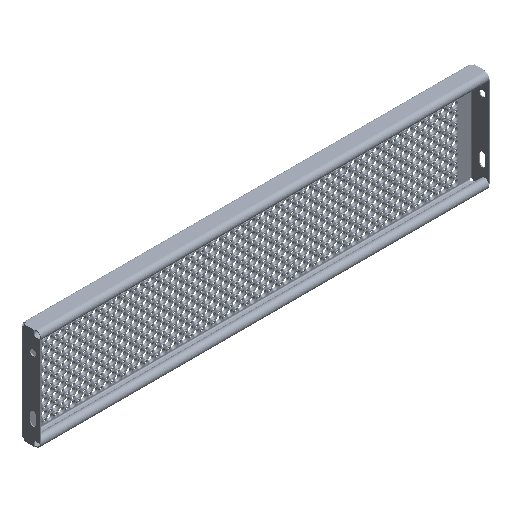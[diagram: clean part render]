
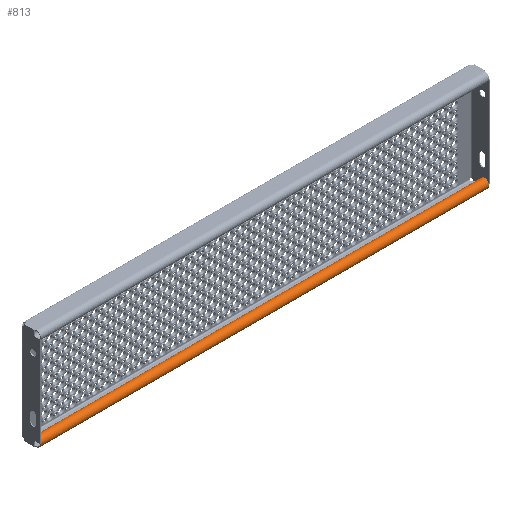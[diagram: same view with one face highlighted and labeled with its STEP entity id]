
A CAD part, isometric view. The second image highlights one B-rep face of the part: STEP entity #813.
In plain terms, the highlighted cylindrical face has radius 10 mm (diameter 20 mm), a partial arc.
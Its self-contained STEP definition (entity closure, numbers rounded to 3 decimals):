
#813 = ADVANCED_FACE ( 'NONE', ( #214527 ), #146506, .T. ) ;
#16331 = DIRECTION ( 'NONE',  ( 1., 0., 0. ) ) ;
#33670 = ORIENTED_EDGE ( 'NONE', *, *, #230740, .F. ) ;
#39872 = CARTESIAN_POINT ( 'NONE',  ( 497.99, -31.998, -112.5 ) ) ;
#56195 = VECTOR ( 'NONE', #291475, 1000. ) ;
#57817 = DIRECTION ( 'NONE',  ( 1., 0., 0. ) ) ;
#66999 = AXIS2_PLACEMENT_3D ( 'NONE', #177447, #57817, #241402 ) ;
#74448 = EDGE_LOOP ( 'NONE', ( #33670, #300738, #223376, #109330 ) ) ;
#75141 = CARTESIAN_POINT ( 'NONE',  ( 497.99, -31.998, -102.5 ) ) ;
#82253 = LINE ( 'NONE', #109139, #336529 ) ;
#96508 = DIRECTION ( 'NONE',  ( 0., 0., -1. ) ) ;
#105406 = AXIS2_PLACEMENT_3D ( 'NONE', #228369, #203463, #263344 ) ;
#106087 = DIRECTION ( 'NONE',  ( 1., 0., 0. ) ) ;
#109139 = CARTESIAN_POINT ( 'NONE',  ( 497.99, -24.337, -108.928 ) ) ;
#109330 = ORIENTED_EDGE ( 'NONE', *, *, #400013, .F. ) ;
#132868 = AXIS2_PLACEMENT_3D ( 'NONE', #75141, #106087, #96508 ) ;
#146506 = CYLINDRICAL_SURFACE ( 'NONE', #66999, 10. ) ;
#163656 = LINE ( 'NONE', #39872, #56195 ) ;
#177447 = CARTESIAN_POINT ( 'NONE',  ( 497.99, -31.998, -102.5 ) ) ;
#181413 = VERTEX_POINT ( 'NONE', #405863 ) ;
#183858 = CARTESIAN_POINT ( 'NONE',  ( -497.99, -24.337, -108.928 ) ) ;
#190927 = EDGE_CURVE ( 'NONE', #254508, #399905, #231194, .T. ) ;
#199409 = CARTESIAN_POINT ( 'NONE',  ( 497.99, -31.998, -112.5 ) ) ;
#203463 = DIRECTION ( 'NONE',  ( -1., 0., 0. ) ) ;
#214527 = FACE_OUTER_BOUND ( 'NONE', #74448, .T. ) ;
#215014 = VERTEX_POINT ( 'NONE', #183858 ) ;
#223376 = ORIENTED_EDGE ( 'NONE', *, *, #327263, .F. ) ;
#228369 = CARTESIAN_POINT ( 'NONE',  ( -497.99, -31.998, -102.5 ) ) ;
#229839 = CARTESIAN_POINT ( 'NONE',  ( 497.99, -24.337, -108.928 ) ) ;
#230740 = EDGE_CURVE ( 'NONE', #399905, #181413, #163656, .T. ) ;
#231194 = CIRCLE ( 'NONE', #132868, 10. ) ;
#241402 = DIRECTION ( 'NONE',  ( 0., 0.766, -0.643 ) ) ;
#254508 = VERTEX_POINT ( 'NONE', #229839 ) ;
#263344 = DIRECTION ( 'NONE',  ( 0., 0., -1. ) ) ;
#291475 = DIRECTION ( 'NONE',  ( -1., 0., 0. ) ) ;
#300738 = ORIENTED_EDGE ( 'NONE', *, *, #190927, .F. ) ;
#322724 = CIRCLE ( 'NONE', #105406, 10. ) ;
#327263 = EDGE_CURVE ( 'NONE', #215014, #254508, #82253, .T. ) ;
#336529 = VECTOR ( 'NONE', #16331, 1000. ) ;
#399905 = VERTEX_POINT ( 'NONE', #199409 ) ;
#400013 = EDGE_CURVE ( 'NONE', #181413, #215014, #322724, .T. ) ;
#405863 = CARTESIAN_POINT ( 'NONE',  ( -497.99, -31.998, -112.5 ) ) ;
